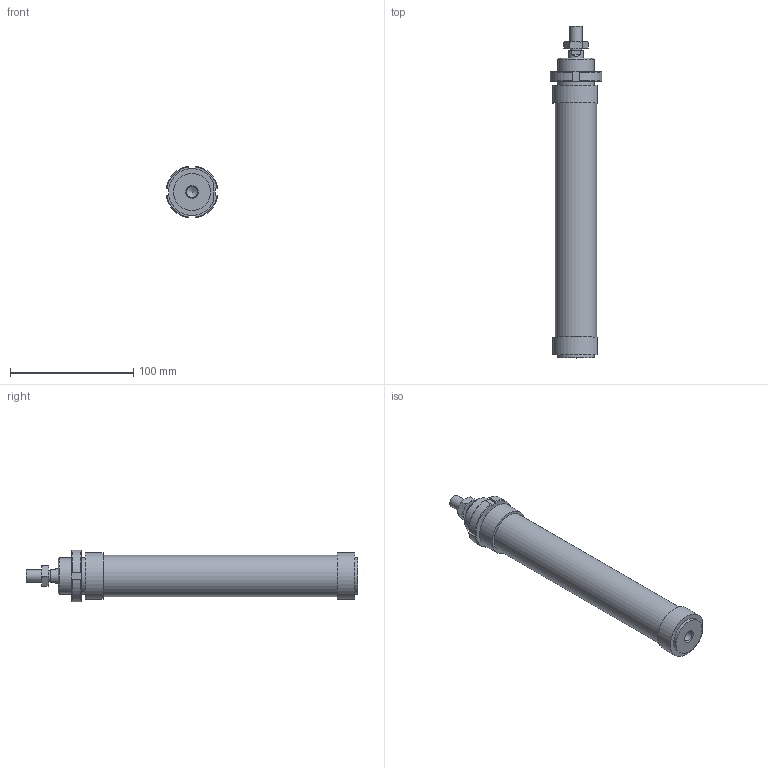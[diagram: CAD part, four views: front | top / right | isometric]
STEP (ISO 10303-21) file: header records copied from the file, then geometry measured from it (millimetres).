
FILE_DESCRIPTION((''),'2;1');
FILE_NAME('I:\Area Tecnica\Disegni\VARIE-3D\Componenti\1280\1281_##_####_#\1281_32_0150.iam.stp','2009-06-04T09:41:09',(''),(''),'Autodesk Inventor 2010','Autodesk Inventor 2010','');
FILE_SCHEMA(('AUTOMOTIVE_DESIGN { 1 0 10303 214 1 1 1 1 }'));
Length unit declared in the file: millimetre
Products named in the file (5): 1281_32_0150; C1281_32_150; S1280_32_150; 1200_32_05; 1200_32_06
Assembly tree (4 placements, depth 2):
  1281_32_0150
    C1281_32_150
    S1280_32_150
    1200_32_05
    1200_32_06
Bounding box: 41.7 x 269.5 x 41.7 mm (x, y, z)
Volume: 225283.1 mm3; surface area: 48412 mm2
Topology: 4 solids, 4 shells, 88 faces, 195 edges, 124 vertices
Faces by surface type: plane 39, cone 22, bspline 14, cylinder 13
Full cylindrical faces by diameter (mm): 8.8 x1, 10 x1, 12 x2, 30 x2, 33.6 x1
Entity records: 2663 total; most frequent: CARTESIAN_POINT 675, DIRECTION 362, ORIENTED_EDGE 338, EDGE_CURVE 169, AXIS2_PLACEMENT_3D 150, EDGE_LOOP 122, VERTEX_POINT 119, STYLED_ITEM 92
